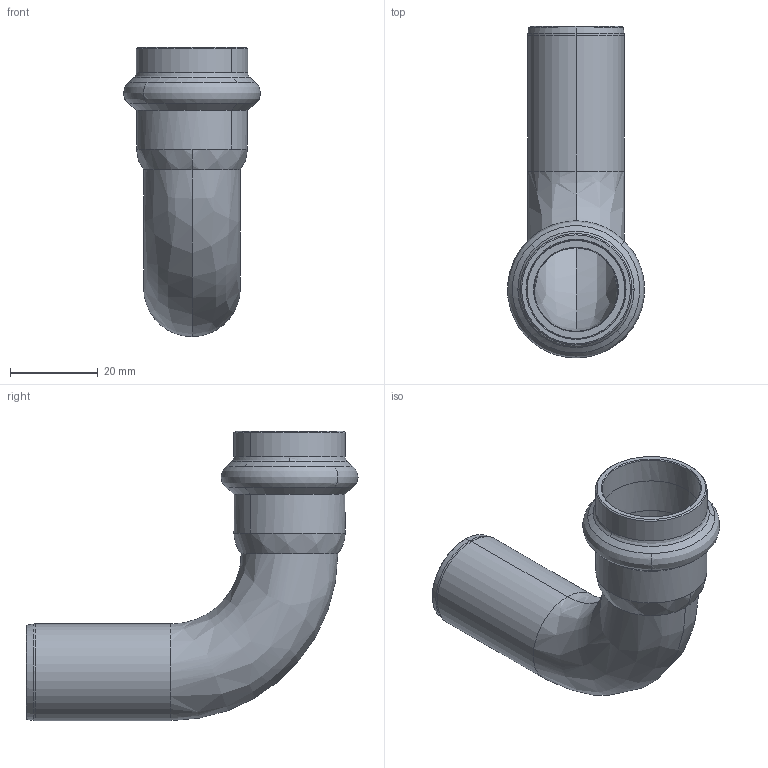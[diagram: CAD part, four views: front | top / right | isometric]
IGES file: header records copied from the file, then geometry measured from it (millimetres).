
Start section: Elysium IGES Interface
Global section: file name: C:\Users\Wallenburg\Desktop\3d modellen sudo\S-Pr VP\SP6001V\6001VW22.igs; native system: CoCreate Modeling 17.00A  17-Jun-2010; preprocessor: CoCreate IGES_3D V2.2; author: Unknown; organization: Unknown; date: 20130114.115623; units: millimetre
Bounding box: 31.19 x 75.58 x 65.84 mm (x, y, z)
Volume: 11794.6 mm3; surface area: 14557 mm2
Topology: 1 solids, 1 shells, 52 faces, 126 edges, 78 vertices
Faces by surface type: bspline 52
